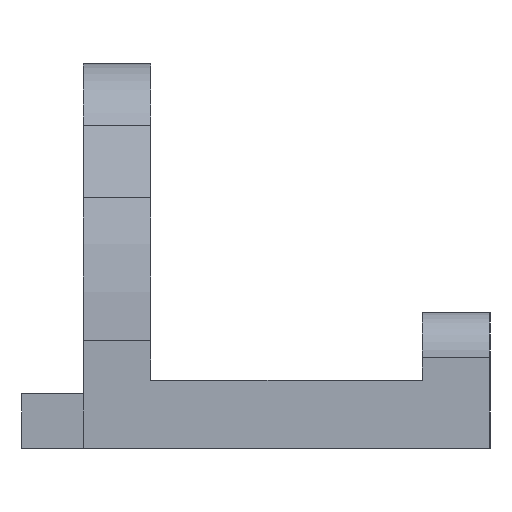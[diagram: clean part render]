
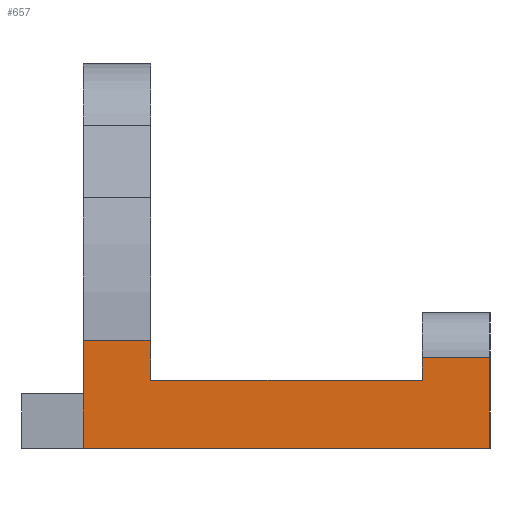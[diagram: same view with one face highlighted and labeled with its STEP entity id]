
A CAD part, left-side view. The second image highlights one B-rep face of the part: STEP entity #657.
In plain terms, the highlighted planar face has unit normal (-1, 0, 0).
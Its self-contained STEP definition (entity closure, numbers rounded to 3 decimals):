
#23=PLANE('',#717);
#53=FACE_OUTER_BOUND('',#87,.T.);
#87=EDGE_LOOP('',(#497,#498,#499,#500,#501,#502,#503,#504));
#137=LINE('',#1011,#213);
#140=LINE('',#1018,#216);
#141=LINE('',#1021,#217);
#142=LINE('',#1023,#218);
#143=LINE('',#1025,#219);
#144=LINE('',#1027,#220);
#145=LINE('',#1029,#221);
#146=LINE('',#1030,#222);
#213=VECTOR('',#819,10.);
#216=VECTOR('',#826,10.);
#217=VECTOR('',#829,10.);
#218=VECTOR('',#830,10.);
#219=VECTOR('',#831,10.);
#220=VECTOR('',#832,10.);
#221=VECTOR('',#833,10.);
#222=VECTOR('',#834,10.);
#310=VERTEX_POINT('',#1008);
#311=VERTEX_POINT('',#1010);
#313=VERTEX_POINT('',#1016);
#314=VERTEX_POINT('',#1020);
#315=VERTEX_POINT('',#1022);
#316=VERTEX_POINT('',#1024);
#317=VERTEX_POINT('',#1026);
#318=VERTEX_POINT('',#1028);
#384=EDGE_CURVE('',#311,#310,#137,.T.);
#388=EDGE_CURVE('',#313,#310,#140,.T.);
#389=EDGE_CURVE('',#314,#313,#141,.T.);
#390=EDGE_CURVE('',#315,#314,#142,.T.);
#391=EDGE_CURVE('',#315,#316,#143,.T.);
#392=EDGE_CURVE('',#317,#316,#144,.T.);
#393=EDGE_CURVE('',#318,#317,#145,.T.);
#394=EDGE_CURVE('',#318,#311,#146,.T.);
#497=ORIENTED_EDGE('',*,*,#388,.F.);
#498=ORIENTED_EDGE('',*,*,#389,.F.);
#499=ORIENTED_EDGE('',*,*,#390,.F.);
#500=ORIENTED_EDGE('',*,*,#391,.T.);
#501=ORIENTED_EDGE('',*,*,#392,.F.);
#502=ORIENTED_EDGE('',*,*,#393,.F.);
#503=ORIENTED_EDGE('',*,*,#394,.T.);
#504=ORIENTED_EDGE('',*,*,#384,.T.);
#657=ADVANCED_FACE('',(#53),#23,.T.);
#717=AXIS2_PLACEMENT_3D('',#1019,#827,#828);
#819=DIRECTION('',(0.,0.,1.));
#826=DIRECTION('',(0.,-1.,0.));
#827=DIRECTION('center_axis',(-1.,0.,0.));
#828=DIRECTION('ref_axis',(0.,-1.,0.));
#829=DIRECTION('',(0.,0.,1.));
#830=DIRECTION('',(0.,-1.,0.));
#831=DIRECTION('',(0.,0.,1.));
#832=DIRECTION('',(0.,-1.,0.));
#833=DIRECTION('',(0.,0.,1.));
#834=DIRECTION('',(0.,-1.,0.));
#1008=CARTESIAN_POINT('',(-50.,0.,4.));
#1010=CARTESIAN_POINT('',(-50.,0.,0.));
#1011=CARTESIAN_POINT('',(-50.,0.,0.));
#1016=CARTESIAN_POINT('',(-50.,3.,4.));
#1018=CARTESIAN_POINT('',(-50.,9.75,4.));
#1019=CARTESIAN_POINT('Origin',(-50.,18.,0.));
#1020=CARTESIAN_POINT('',(-50.,3.,3.));
#1021=CARTESIAN_POINT('',(-50.,3.,3.));
#1022=CARTESIAN_POINT('',(-50.,15.,3.));
#1023=CARTESIAN_POINT('',(-50.,18.,3.));
#1024=CARTESIAN_POINT('',(-50.,15.,4.754));
#1025=CARTESIAN_POINT('',(-50.,15.,3.));
#1026=CARTESIAN_POINT('',(-50.,18.,4.754));
#1027=CARTESIAN_POINT('',(-50.,17.625,4.754));
#1028=CARTESIAN_POINT('',(-50.,18.,0.));
#1029=CARTESIAN_POINT('',(-50.,18.,0.));
#1030=CARTESIAN_POINT('',(-50.,18.,0.));
